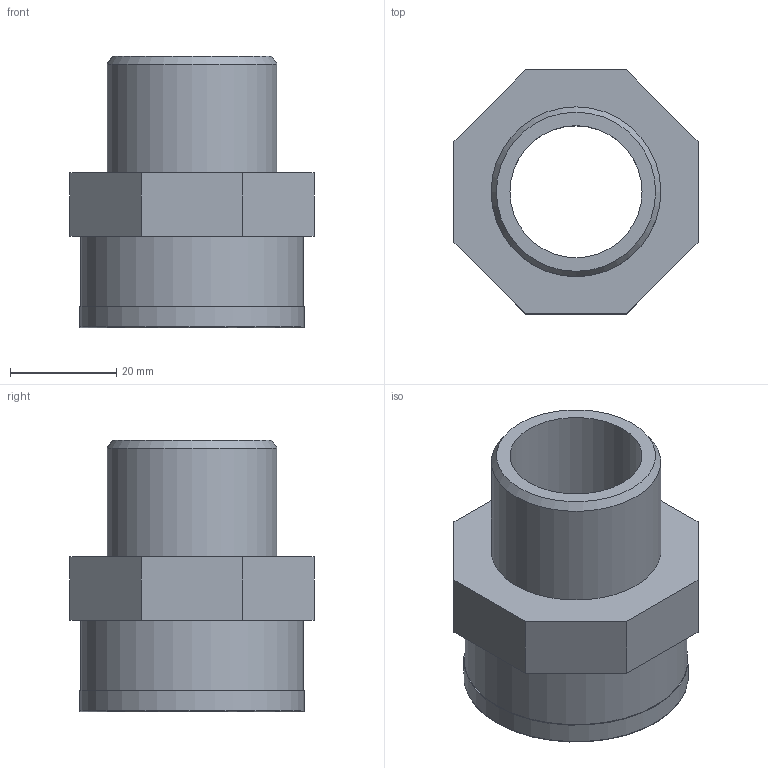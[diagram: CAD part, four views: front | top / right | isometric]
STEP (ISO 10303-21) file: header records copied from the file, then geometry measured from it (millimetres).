
FILE_DESCRIPTION(/* description */ (''),/* implementation_level */ '2;1');
FILE_NAME(/* name */ 'C:\Users\POLYPIPE\Desktop\DATASET INVENTOR\LIBRERIA EFFAST\RACCORDI 3DxWEB\RGR\3D_RGRAFR\3D_RGRAFR032D.stp',/* time_stamp */ '2018-01-19T17:31:02+01:00',/* author */ ('POLYPIPE'),/* organization */ (''),/* preprocessor_version */ 'ST-DEVELOPER v16.1',/* originating_system */ 'Autodesk Inventor 2016',/* authorisation */ '');
FILE_SCHEMA (('CONFIG_CONTROL_DESIGN'));
Length unit declared in the file: centimetre
Products named in the file (1): 3D_RGRAFR032D
Bounding box: 46 x 46 x 51.25 mm (x, y, z)
Volume: 30719.3 mm3; surface area: 14673.9 mm2
Topology: 1 solids, 1 shells, 29 faces, 64 edges, 42 vertices
Faces by surface type: plane 16, cylinder 6, bspline 5, cone 1, torus 1
Full cylindrical faces by diameter (mm): 24.9 x1, 30.291 x1, 32 x1, 37 x1, 42 x1, 42.3 x1
Entity records: 4158 total; most frequent: CARTESIAN_POINT 3508, DIRECTION 109, ORIENTED_EDGE 108, EDGE_CURVE 54, EDGE_LOOP 44, AXIS2_PLACEMENT_3D 41, VERTEX_POINT 40, STYLED_ITEM 30
